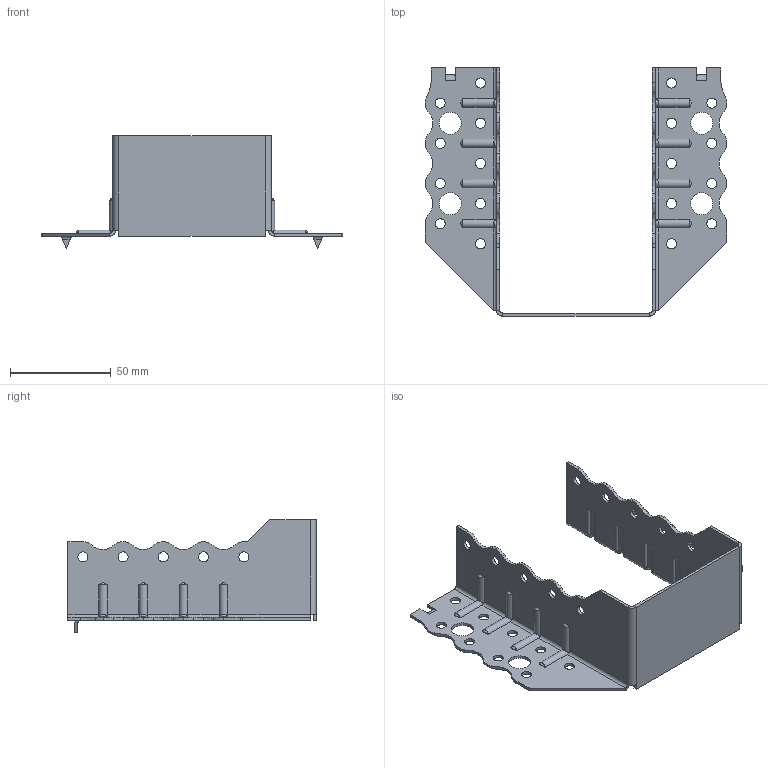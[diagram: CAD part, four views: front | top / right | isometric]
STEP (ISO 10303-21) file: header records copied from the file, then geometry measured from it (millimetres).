
FILE_DESCRIPTION (( 'STEP AP203' ), '1' );
FILE_NAME ('30613TOPK.STEP', '2021-04-08T14:33:18', ( '' ), ( '' ), 'SwSTEP 2.0', 'SolidWorks 2013', '' );
FILE_SCHEMA (( 'CONFIG_CONTROL_DESIGN' ));
Length unit declared in the file: millimetre
Products named in the file (1): 30613TOPK
Bounding box: 150 x 123.5 x 56 mm (x, y, z)
Volume: 29439.8 mm3; surface area: 42118.3 mm2
Topology: 1 solids, 1 shells, 357 faces, 957 edges, 602 vertices
Faces by surface type: cylinder 219, plane 106, torus 16, bspline 16
Entity records: 13124 total; most frequent: CARTESIAN_POINT 4079, ORIENTED_EDGE 1914, DIRECTION 1851, EDGE_CURVE 957, AXIS2_PLACEMENT_3D 672, VERTEX_POINT 602, VECTOR 507, LINE 507
